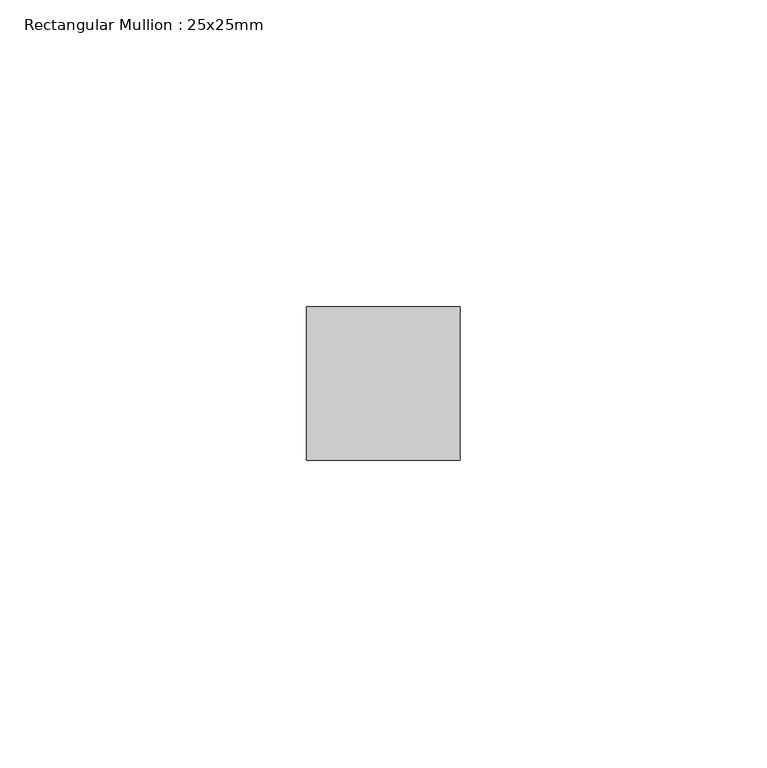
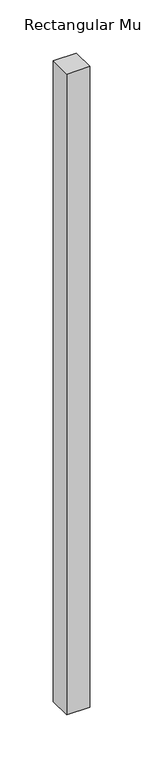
"""IFC4 building model written with IfcOpenShell, lengths in millimetres: member geometry, Rectangular Mullion : 25x25mm."""

from ifc_helpers import new_model, si_unit, frame, origin, place, context, project, spatial, polyline, outline, extrude, source, transform, mapped, element, save


def rectangular_mullion_25x25mm_003a9669(model_context):
    return source(origin(), model_context, "Body", "SweptSolid", [
        extrude(outline(polyline([(0.0, 24.5), (0.0, -0.5), (-25.0, -0.5), (-25.0, 24.5), (0.0, 24.5)])), frame((0.0, 0.0, -735.0000001), z_axis=(0.0, 0.0, 1.0), x_axis=(1.0, 0.0, 0.0)), (0.0, 0.0, 1.0), 735.0000001),
    ])


if __name__ == "__main__":
    model = new_model("IFC4")
    model_context = context("Model", 3, world=origin())
    ifc_project = project(units=[si_unit("LENGTHUNIT", "METRE", prefix="MILLI")], contexts=[model_context])
    site = spatial("IfcSite", under=ifc_project)
    building = spatial("IfcBuilding", under=site)
    placement = place(None, origin())
    rectangular_mullion_25x25mm_shape = rectangular_mullion_25x25mm_003a9669(model_context)
    element("IfcMember", 1, ObjectType="Rectangular Mullion : 25x25mm", at=placement, inside=building, context=model_context, shape_type="MappedRepresentation", body=[
        mapped(rectangular_mullion_25x25mm_shape, transform((0.0, 0.0, 0.0), x_axis=(1.0, 0.0, 0.0), y_axis=(0.0, 1.0, 0.0), z_axis=(0.0, 0.0, 1.0))),
    ])
    save(model, "model.ifc")
